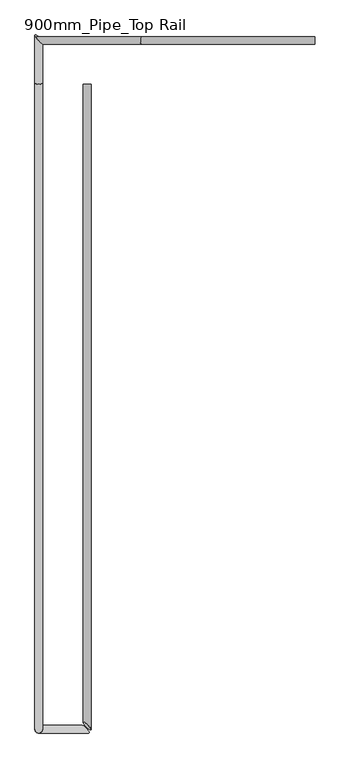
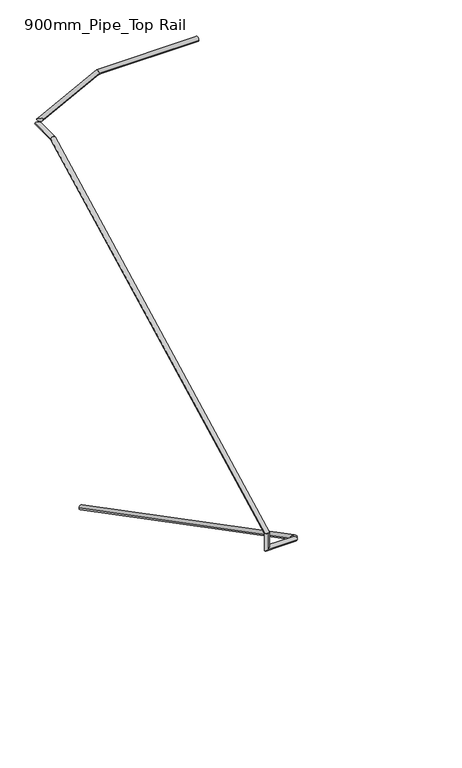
"""IFC4 building model written with IfcOpenShell, lengths in millimetres: railing geometry, 900mm_Pipe_Top Rail."""

from ifc_helpers import new_model, si_unit, frame, origin, place, context, project, spatial, circle_curve, ellipse_curve, source, transform, mapped, element, save
from ifc_brep_helpers import plane_surface, cylinder_surface, advanced_brep


def railing_900mm_pipe_top_rail_68615e7b(model_context):
    return source(origin(), model_context, "Body", "AdvancedBrep", [
        advanced_brep(
        [(-11985.2146087, 12214.8932827, 31043.2339199), (-11945.2146087, 12214.8932827, 31043.2339199), (-11985.2146087, 8923.4268988, 32752.2645423), (-11945.2146087, 8887.9270557, 32770.6971531)],
        [
            (0, 1, ellipse_curve(frame((-11965.2146087, 12214.8932827, 31043.2339199), z_axis=(0.0, 1.0, 0.0), x_axis=(0.0, 0.0, -1.0)), 22.5353109, 20.0)),
            (1, 0, ellipse_curve(frame((-11965.2146087, 12214.8932827, 31043.2339199), z_axis=(0.0, 1.0, 0.0), x_axis=(0.0, 0.0, -1.0)), 22.5353109, 20.0)),
            (2, 3, ellipse_curve(frame((-11965.2146087, 8905.6769773, 32761.4808477), z_axis=(-0.7071067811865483, -0.6275544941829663, 0.32584560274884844), x_axis=(-0.7071067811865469, 0.6275544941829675, -0.32584560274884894)), 28.2842712, 20.0)),
            (3, 2, ellipse_curve(frame((-11965.2146087, 8905.6769773, 32761.4808477), z_axis=(-0.7071067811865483, -0.6275544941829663, 0.32584560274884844), x_axis=(-0.7071067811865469, 0.6275544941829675, -0.32584560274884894)), 28.2842712, 20.0)),
            (0, 2),
            (3, 1),
        ],
        [
            plane_surface(frame((-11965.2146087, 12214.8932827, 31065.7692308), z_axis=(0.0, 1.0, 0.0), x_axis=(0.0, 0.0, -1.0))),
            plane_surface(frame((-11965.2146087, 8914.8932827, 32779.2307692), z_axis=(-0.7071067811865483, -0.6275544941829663, 0.32584560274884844), x_axis=(0.7071067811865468, -0.6275544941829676, 0.3258456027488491))),
            cylinder_surface(frame((-11965.2146087, 12205.6769773, 31048.0193092), z_axis=(0.0, 0.8874960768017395, -0.46081527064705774), x_axis=(1.0, 0.0, 0.0)), 20.0),
        ],
        [
            (0, [[1, 2]]),
            (1, [[3, 4]]),
            (2, [[-1, 5, -4, 6]]),
            (2, [[-2, -6, -3, -5]]),
        ],
    ),
        advanced_brep(
        [(-11992.1808356, 8909.8932827, 32759.2307692), (-11956.6809926, 8869.8932827, 32759.2307692), (-12215.3216429, 8909.8932827, 32759.2307692), (-12215.3216429, 8869.8932827, 32759.2307692)],
        [
            (0, 1, ellipse_curve(frame((-11974.4309141, 8889.8932827, 32759.2307692), z_axis=(0.7071067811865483, 0.6275544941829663, -0.32584560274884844), x_axis=(0.7071067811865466, -0.6275544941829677, 0.3258456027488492)), 28.2842712, 20.0)),
            (1, 0, ellipse_curve(frame((-11974.4309141, 8889.8932827, 32759.2307692), z_axis=(0.7071067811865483, 0.6275544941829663, -0.32584560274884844), x_axis=(0.7071067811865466, -0.6275544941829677, 0.3258456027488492)), 28.2842712, 20.0)),
            (2, 3, ellipse_curve(frame((-12215.3216429, 8889.8932827, 32759.2307692), z_axis=(-0.7071067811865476, 0.0, 0.7071067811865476), x_axis=(0.7071067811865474, 0.0, 0.7071067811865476)), 28.2842712, 20.0)),
            (3, 2, ellipse_curve(frame((-12215.3216429, 8889.8932827, 32759.2307692), z_axis=(-0.7071067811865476, 0.0, 0.7071067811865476), x_axis=(0.7071067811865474, 0.0, 0.7071067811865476)), 28.2842712, 20.0)),
            (0, 2),
            (3, 1),
        ],
        [
            plane_surface(frame((-11965.2146087, 8889.8932827, 32779.2307692), z_axis=(0.7071067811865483, 0.6275544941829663, -0.32584560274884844), x_axis=(0.7071067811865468, -0.6275544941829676, 0.3258456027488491))),
            plane_surface(frame((-12195.3216429, 8889.8932827, 32779.2307692), z_axis=(-0.7071067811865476, 0.0, 0.7071067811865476), x_axis=(0.7071067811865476, 0.0, 0.7071067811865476))),
            cylinder_surface(frame((-11965.2146087, 8889.8932827, 32759.2307692), z_axis=(1.0, 0.0, 0.0), x_axis=(0.0, -1.0, 0.0)), 20.0),
        ],
        [
            (0, [[1, 2]]),
            (1, [[3, 4]]),
            (2, [[-1, 5, -4, 6]]),
            (2, [[-2, -6, -3, -5]]),
        ],
    ),
        advanced_brep(
        [(-12215.3216429, 8909.8932827, 32759.2307692), (-12215.3216429, 8869.8932827, 32759.2307692), (-12215.3216429, 8909.8932827, 32887.3332244), (-12215.3216429, 8869.8932827, 32911.6346154)],
        [
            (0, 1, ellipse_curve(frame((-12215.3216429, 8889.8932827, 32759.2307692), z_axis=(0.7071067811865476, 0.0, -0.7071067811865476), x_axis=(-0.7071067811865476, 0.0, -0.7071067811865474)), 28.2842712, 20.0)),
            (1, 0, ellipse_curve(frame((-12215.3216429, 8889.8932827, 32759.2307692), z_axis=(0.7071067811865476, 0.0, -0.7071067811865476), x_axis=(-0.7071067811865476, 0.0, -0.7071067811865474)), 28.2842712, 20.0)),
            (2, 3, ellipse_curve(frame((-12215.3216429, 8889.8932827, 32899.4839199), z_axis=(0.0, 0.5192228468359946, 0.8546388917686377), x_axis=(0.0, 0.8546388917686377, -0.5192228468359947)), 23.4016965, 20.0)),
            (3, 2, ellipse_curve(frame((-12215.3216429, 8889.8932827, 32899.4839199), z_axis=(0.0, 0.5192228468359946, 0.8546388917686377), x_axis=(0.0, 0.8546388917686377, -0.5192228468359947)), 23.4016965, 20.0)),
            (0, 2),
            (3, 1),
        ],
        [
            plane_surface(frame((-12215.3216429, 8889.8932827, 32759.2307692), z_axis=(0.7071067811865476, 0.0, -0.7071067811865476), x_axis=(0.7071067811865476, 0.0, 0.7071067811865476))),
            plane_surface(frame((-12215.3216429, 8889.8932827, 32899.4839199), z_axis=(0.0, 0.5192228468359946, 0.8546388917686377), x_axis=(1.0, 0.0, 0.0))),
            cylinder_surface(frame((-12215.3216429, 8889.8932827, 32759.2307692), z_axis=(0.0, 0.0, -1.0), x_axis=(0.0, -1.0, 0.0)), 20.0),
        ],
        [
            (0, [[1, 2]]),
            (1, [[3, 4]]),
            (2, [[-1, 5, -4, 6]]),
            (2, [[-2, -6, -3, -5]]),
        ],
    ),
        advanced_brep(
        [(-12195.3216429, 8889.8932827, 32899.4839199), (-12235.3216429, 8889.8932827, 32899.4839199), (-12195.3216429, 12219.7761036, 34628.4615385), (-12235.3216429, 12219.7761036, 34628.4615385), (-12195.3216429, 12431.3597975, 34628.4615385), (-12235.3216429, 12466.8596406, 34628.4615385)],
        [
            (0, 1, ellipse_curve(frame((-12215.3216429, 8889.8932827, 32899.4839199), z_axis=(0.0, -0.5192228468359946, -0.8546388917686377), x_axis=(0.0, -0.8546388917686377, 0.5192228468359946)), 23.4016965, 20.0)),
            (1, 0, ellipse_curve(frame((-12215.3216429, 8889.8932827, 32899.4839199), z_axis=(0.0, -0.5192228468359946, -0.8546388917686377), x_axis=(0.0, -0.8546388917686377, 0.5192228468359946)), 23.4016965, 20.0)),
            (0, 2),
            (2, 3, ellipse_curve(frame((-12215.3216429, 12219.7761036, 34628.4615385), z_axis=(0.0, -0.9714669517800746, -0.23717495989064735), x_axis=(0.0, 0.2371749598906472, -0.9714669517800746)), 20.5874219, 20.0)),
            (3, 1),
            (3, 2, ellipse_curve(frame((-12215.3216429, 12219.7761036, 34628.4615385), z_axis=(0.0, -0.9714669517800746, -0.23717495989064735), x_axis=(0.0, 0.2371749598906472, -0.9714669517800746)), 20.5874219, 20.0)),
            (4, 5, ellipse_curve(frame((-12215.3216429, 12449.1097191, 34628.4615385), z_axis=(0.6275544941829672, 0.7071067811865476, 0.3258456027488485), x_axis=(0.6275544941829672, -0.7071067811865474, 0.3258456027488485)), 28.2842712, 20.0)),
            (5, 4, ellipse_curve(frame((-12215.3216429, 12449.1097191, 34628.4615385), z_axis=(0.6275544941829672, 0.7071067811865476, 0.3258456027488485), x_axis=(0.6275544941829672, -0.7071067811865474, 0.3258456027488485)), 28.2842712, 20.0)),
            (2, 4),
            (5, 3),
        ],
        [
            plane_surface(frame((-12215.3216429, 8869.8932827, 32911.6346154), z_axis=(0.0, -0.5192228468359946, -0.8546388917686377), x_axis=(1.0, 0.0, 0.0))),
            cylinder_surface(frame((-12215.3216429, 8879.1095881, 32893.8846938), z_axis=(0.0, -0.8874960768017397, -0.4608152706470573), x_axis=(-1.0, 0.0, 0.0)), 20.0),
            plane_surface(frame((-12215.3216429, 12439.8934136, 34648.4615385), z_axis=(0.6275544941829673, 0.7071067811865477, 0.32584560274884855), x_axis=(0.7785726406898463, -0.5699507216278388, -0.26264199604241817))),
            cylinder_surface(frame((-12215.3216429, 12214.8932827, 34628.4615385), z_axis=(0.0, -1.0, 0.0), x_axis=(-1.0, 0.0, 0.0)), 20.0),
        ],
        [
            (0, [[1, 2]]),
            (1, [[-1, 3, 4, 5]]),
            (1, [[-2, -5, 6, -3]]),
            (2, [[7, 8]]),
            (3, [[-4, 9, -8, 10]]),
            (3, [[-6, -10, -7, -9]]),
        ],
    ),
        advanced_brep(
        [(-12188.355416, 12419.8934136, 34678.8146546), (-12223.8552591, 12459.8934136, 34660.3820437), (-11685.3317877, 12419.8934136, 34940.0), (-11685.3317877, 12459.8934136, 34940.0), (-10790.2146087, 12419.8934136, 34940.0), (-10790.2146087, 12459.8934136, 34940.0)],
        [
            (0, 1, ellipse_curve(frame((-12206.1053375, 12439.8934136, 34669.5983491), z_axis=(-0.6275544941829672, -0.7071067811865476, -0.3258456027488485), x_axis=(-0.6275544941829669, 0.7071067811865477, -0.3258456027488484)), 28.2842712, 20.0)),
            (1, 0, ellipse_curve(frame((-12206.1053375, 12439.8934136, 34669.5983491), z_axis=(-0.6275544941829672, -0.7071067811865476, -0.3258456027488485), x_axis=(-0.6275544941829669, 0.7071067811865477, -0.3258456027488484)), 28.2842712, 20.0)),
            (0, 2),
            (2, 3, ellipse_curve(frame((-11685.3317877, 12439.8934136, 34940.0), z_axis=(-0.9714669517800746, 0.0, -0.2371749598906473), x_axis=(0.23717495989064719, 0.0, -0.9714669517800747)), 20.5874219, 20.0)),
            (3, 1),
            (3, 2, ellipse_curve(frame((-11685.3317877, 12439.8934136, 34940.0), z_axis=(-0.9714669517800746, 0.0, -0.2371749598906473), x_axis=(0.23717495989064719, 0.0, -0.9714669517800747)), 20.5874219, 20.0)),
            (4, 5, circle_curve(frame((-10790.2146087, 12439.8934136, 34940.0), z_axis=(1.0, 0.0, 0.0), x_axis=(0.0, 1.0, 0.0)), 20.0)),
            (5, 4, circle_curve(frame((-10790.2146087, 12439.8934136, 34940.0), z_axis=(1.0, 0.0, 0.0), x_axis=(0.0, 1.0, 0.0)), 20.0)),
            (2, 4),
            (5, 3),
        ],
        [
            plane_surface(frame((-12215.3216429, 12439.8934136, 34687.3482707), z_axis=(-0.6275544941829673, -0.7071067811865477, -0.32584560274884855), x_axis=(0.7785726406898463, -0.5699507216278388, -0.26264199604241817))),
            cylinder_surface(frame((-12206.1053375, 12439.8934136, 34669.5983491), z_axis=(-0.8874960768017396, 0.0, -0.4608152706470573), x_axis=(0.0, 1.0, 0.0)), 20.0),
            plane_surface(frame((-10790.2146087, 12439.8934136, 34960.0), z_axis=(1.0, 0.0, 0.0), x_axis=(0.0, 1.0, 0.0))),
            cylinder_surface(frame((-11690.2146087, 12439.8934136, 34940.0), z_axis=(-1.0, 0.0, 0.0), x_axis=(0.0, 1.0, 0.0)), 20.0),
        ],
        [
            (0, [[1, 2]]),
            (1, [[-1, 3, 4, 5]]),
            (1, [[-2, -5, 6, -3]]),
            (2, [[7, 8]]),
            (3, [[-4, 9, -8, 10]]),
            (3, [[-6, -10, -7, -9]]),
        ],
    ),
    ])


if __name__ == "__main__":
    model = new_model("IFC4")
    model_context = context("Model", 3, world=origin())
    ifc_project = project(units=[si_unit("LENGTHUNIT", "METRE", prefix="MILLI")], contexts=[model_context])
    site = spatial("IfcSite", under=ifc_project)
    building = spatial("IfcBuilding", under=site)
    placement = place(None, origin())
    railing_900mm_pipe_top_rail_shape = railing_900mm_pipe_top_rail_68615e7b(model_context)
    element("IfcRailing", 1, ObjectType="900mm_Pipe_Top Rail", at=placement, inside=building, context=model_context, shape_type="MappedRepresentation", body=[
        mapped(railing_900mm_pipe_top_rail_shape, transform((0.0, 0.0, 0.0), x_axis=(1.0, 0.0, 0.0), y_axis=(0.0, 1.0, 0.0), z_axis=(0.0, 0.0, 1.0))),
    ])
    save(model, "model.ifc")
